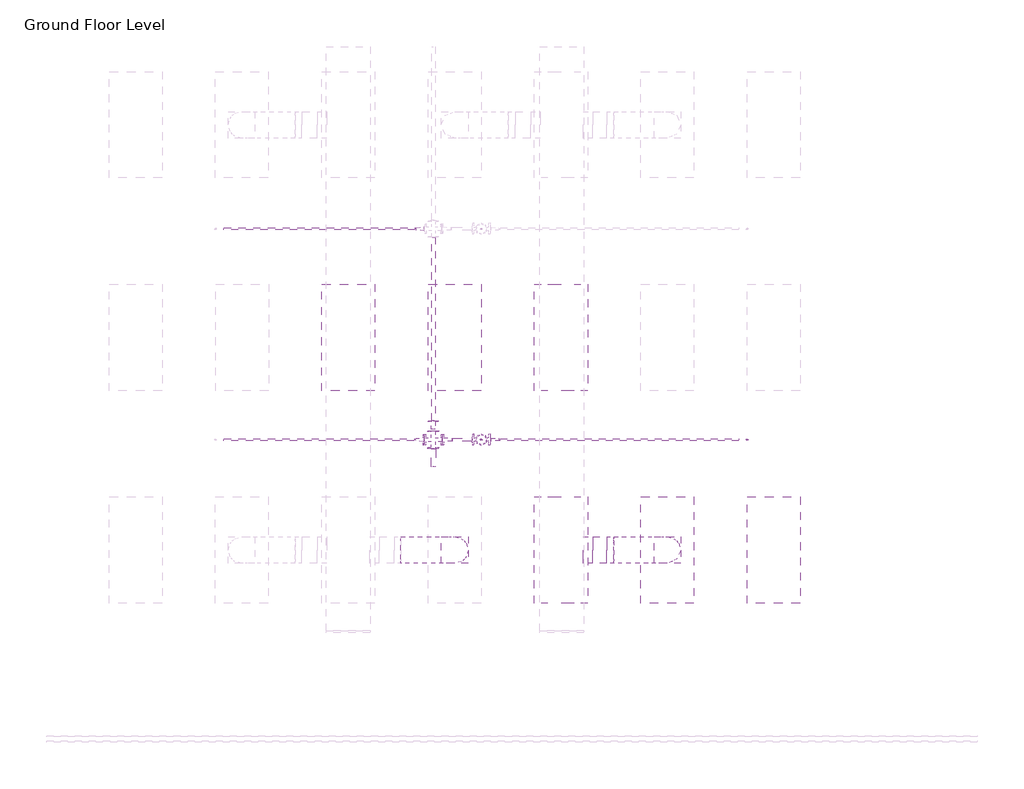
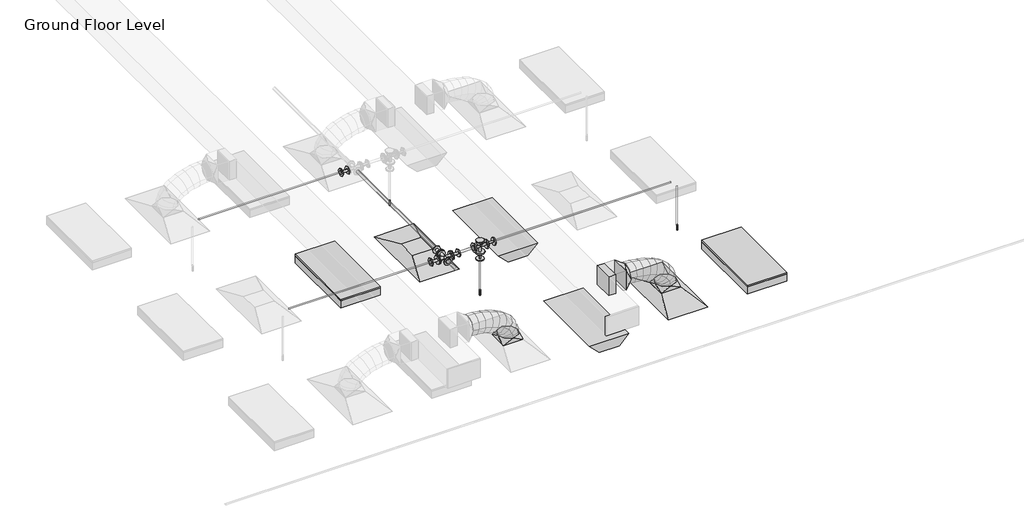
# One storey, part 45 of 74: 8 pipe fittings, 8 pipe segments, 4 duct fittings, 4 light fixtures, 3 duct segments, 3 fire suppression terminals, 2 air terminals.
"""IFC4 building model written with IfcOpenShell, lengths in millimetres."""

from ifc_helpers import new_model, si_unit, point, frame, frame_2d, origin, place, context, project, spatial, polyline, circle_curve, ellipse_curve, trimmed, segment, composite_curve, outline, extrude, transform, mapped, element, save
from ifc_brep_helpers import plane_surface, cylinder_surface, advanced_brep
from components import m_return_diffuser_1200x600_1200_x_600_face_300_x_300_d1983ef6, m_rectangular_takeoff_standard_cb0ccb98, m_rectangular_to_round_transition_angle_45_degree_641efff0, m_sprinkler_dry_pendent_hosted_15_mm_dry_pendent_9bda8e11, m_emergency_recessed_lighting_fixture_600x1200_277_5b10b25d, m_troffer_light_parabolic_rectangular1_0600x1200mm_4_lamp_86473d4a, m_cross_flanged_cs_class_150_standard_fc817054, m_reducer_flanged_cs_class_150_standard_ccf252ad, m_reducer_flanged_cs_class_150_standard_d42b2106, m_reducer_flanged_cs_class_150_standard_cc2a7c1d, m_reducer_flanged_cs_class_150_standard_83138b42, m_reducer_flanged_cs_class_150_standard_564df86d, m_reducer_flanged_cs_class_150_standard_8338f9e4, m_tee_round_base_flanged_cs_class_150_standard_7e5987a1

model = new_model("IFC4")

# Units and contexts
model_context = context("Model", 3, world=origin())
ifc_project = project(units=[si_unit("LENGTHUNIT", "METRE", prefix="MILLI")], contexts=[model_context])

# Site, building, storey
site = spatial("IfcSite", under=ifc_project)
building = spatial("IfcBuilding", under=site)
storey = spatial("IfcBuildingStorey", under=building, Name="Ground Floor Level", Elevation=900.0)

# Air terminals
placement = place(None, origin())
m_return_diffuser_1200x600_1200_x_600_face_300_x_300_shape = m_return_diffuser_1200x600_1200_x_600_face_300_x_300_d1983ef6(model_context)
element("IfcAirTerminal", 1, ObjectType="M_Return Diffuser 1200x600 : 1200 x 600 Face 300 x 300 Connection", at=placement, inside=storey, context=model_context, shape_type="MappedRepresentation", body=[
    mapped(m_return_diffuser_1200x600_1200_x_600_face_300_x_300_shape, transform((-5737.2327605, 4035.2153534, 3650.0), x_axis=(0.0, 1.0, 0.0), y_axis=(-1.0, 0.0, 0.0), z_axis=(0.0, 0.0, 1.0))),
])
element("IfcAirTerminal", 2, ObjectType="M_Supply Diffuser 1200x600 : 1200 x 600 Face 300 x 300 Connection", at=placement, inside=storey, context=model_context, shape_type="MappedRepresentation", body=[
    mapped(m_return_diffuser_1200x600_1200_x_600_face_300_x_300_shape, transform((-3337.2327605, 1635.2153534, 3650.0), x_axis=(0.0, 1.0, 0.0), y_axis=(-1.0, 0.0, 0.0), z_axis=(0.0, 0.0, 1.0))),
])

# Duct fittings
m_rectangular_takeoff_standard_shape = m_rectangular_takeoff_standard_cb0ccb98(model_context)
element("IfcDuctFitting", 3, ObjectType="M_Rectangular Takeoff : Standard", at=placement, inside=storey, context=model_context, shape_type="MappedRepresentation", body=[
    mapped(m_rectangular_takeoff_standard_shape, transform((-4278.6910789, 1635.2153534, 4150.0), x_axis=(1.0, 0.0, 0.0), y_axis=(0.0, -1.0, 0.0), z_axis=(0.0, 0.0, -1.0))),
])
m_rectangular_to_round_transition_angle_45_degree_shape = m_rectangular_to_round_transition_angle_45_degree_641efff0(model_context)
element("IfcDuctFitting", 4, ObjectType="M_Rectangular to Round Transition - Angle : 45 Degree", at=placement, inside=storey, context=model_context, shape_type="MappedRepresentation", body=[
    mapped(m_rectangular_to_round_transition_angle_45_degree_shape, transform((-5737.2327605, 1635.2153534, 3751.6), x_axis=(0.0, 0.0, 1.0), y_axis=(-1.0, 0.0, 0.0), z_axis=(0.0, -1.0, 0.0))),
])
element("IfcDuctFitting", 5, ObjectType="M_Rectangular to Round Transition - Angle : 45 Degree", at=placement, inside=storey, context=model_context, shape_type="MappedRepresentation", body=[
    mapped(m_rectangular_to_round_transition_angle_45_degree_shape, transform((-3337.2327605, 1635.2153534, 3751.6), x_axis=(0.0, 0.0, 1.0), y_axis=(-1.0, 0.0, 0.0), z_axis=(0.0, -1.0, 0.0))),
])
element("IfcDuctFitting", 6, ObjectType="M_Rectangular to Round Transition - Angle : 45 Degree", at=placement, inside=storey, context=model_context, shape_type="MappedRepresentation", body=[
    mapped(m_rectangular_to_round_transition_angle_45_degree_shape, transform((-4018.6354231, 1635.2153534, 4150.0), x_axis=(1.0, 0.0, 0.0), y_axis=(0.0, 1.0, 0.0), z_axis=(0.0, 0.0, 1.0))),
])

# Duct segments
element("IfcDuctSegment", 7, ObjectType="Flex - Round", at=placement, inside=storey, context=model_context, shape_type="AdvancedBrep", body=[
    advanced_brep(
    [(-5587.2327605, 1635.2153534, 3826.6), (-5737.2327605, 1485.2153534, 3826.6), (-5887.2327605, 1635.2153534, 3826.6), (-5737.2327605, 1785.2153534, 3826.6), (-5587.2327605, 1635.2153534, 3882.1261126), (-5737.2327605, 1485.2153534, 3857.3049615), (-5887.2327605, 1635.2153534, 3832.4838104), (-5737.2327605, 1785.2153534, 3857.3049615), (-5618.4260847, 1635.2153534, 3973.7995287), (-5753.8941651, 1485.2153534, 3906.2708192), (-5889.3622454, 1635.2153534, 3838.7421096), (-5753.8941651, 1785.2153534, 3906.2708192), (-5688.1600922, 1635.2153534, 4076.4123668), (-5799.7721827, 1485.2153534, 3973.7798261), (-5911.3842733, 1635.2153534, 3871.1472855), (-5799.7721827, 1785.2153534, 3973.7798261), (-5786.0880408, 1635.2153534, 4155.7111802), (-5868.7075193, 1485.2153534, 4029.6013814), (-5951.3269979, 1635.2153534, 3903.4915826), (-5868.7075193, 1785.2153534, 4029.6013814), (-5894.832581, 1635.2153534, 4212.226815), (-5954.5408807, 1485.2153534, 4074.2098454), (-6014.2491805, 1635.2153534, 3936.1928758), (-5954.5408807, 1785.2153534, 4074.2098454), (-6009.1243732, 1635.2153534, 4252.311196), (-6051.1129728, 1485.2153534, 4108.0795788), (-6093.1015724, 1635.2153534, 3963.8479616), (-6051.1129728, 1785.2153534, 4108.0795788), (-6124.8554478, 1635.2153534, 4279.3189347), (-6152.2645014, 1485.2153534, 4131.684942), (-6179.6735551, 1635.2153534, 3984.0509494), (-6152.2645014, 1785.2153534, 4131.684942), (-6237.5146065, 1635.2153534, 4294.9501488), (-6251.8361725, 1485.2153534, 4145.5002956), (-6266.1577385, 1635.2153534, 3996.0504424), (-6251.8361725, 1785.2153534, 4145.5002956), (-6332.3362491, 1635.2153534, 4300.0), (-6336.3276445, 1485.2153534, 4150.0), (-6340.31904, 1635.2153534, 4000.0), (-6336.3276445, 1785.2153534, 4150.0), (-6343.6686918, 1635.2153534, 4300.0), (-6343.6686918, 1785.2153534, 4150.0), (-6343.6686918, 1635.2153534, 4000.0), (-6343.6686918, 1485.2153534, 4150.0)],
    [
        (0, 1, circle_curve(frame((-5737.2327605, 1635.2153534, 3826.6), z_axis=(0.0, 0.0, -1.0), x_axis=(1.0, 0.0, 0.0)), 150.0)),
        (1, 2, circle_curve(frame((-5737.2327605, 1635.2153534, 3826.6), z_axis=(0.0, 0.0, -1.0), x_axis=(1.0, 0.0, 0.0)), 150.0)),
        (2, 3, circle_curve(frame((-5737.2327605, 1635.2153534, 3826.6), z_axis=(0.0, 0.0, -1.0), x_axis=(1.0, 0.0, 0.0)), 150.0)),
        (3, 0, circle_curve(frame((-5737.2327605, 1635.2153534, 3826.6), z_axis=(0.0, 0.0, -1.0), x_axis=(1.0, 0.0, 0.0)), 150.0)),
        (0, 4),
        (4, 5, ellipse_curve(frame((-5737.2327605, 1635.2153534, 3857.3049615), z_axis=(0.1632543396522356, 0.0, -0.9865840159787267), x_axis=(-0.9865840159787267, 0.0, -0.16325433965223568)), 152.039763, 150.0)),
        (5, 1),
        (5, 6, ellipse_curve(frame((-5737.2327605, 1635.2153534, 3857.3049615), z_axis=(0.1632543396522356, 0.0, -0.9865840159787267), x_axis=(-0.9865840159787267, 0.0, -0.16325433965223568)), 152.039763, 150.0)),
        (6, 2),
        (6, 7, ellipse_curve(frame((-5737.2327605, 1635.2153534, 3857.3049615), z_axis=(0.1632543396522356, 0.0, -0.9865840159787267), x_axis=(-0.9865840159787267, 0.0, -0.16325433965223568)), 152.039763, 150.0)),
        (7, 3),
        (7, 4, ellipse_curve(frame((-5737.2327605, 1635.2153534, 3857.3049615), z_axis=(0.1632543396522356, 0.0, -0.9865840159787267), x_axis=(-0.9865840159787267, 0.0, -0.16325433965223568)), 152.039763, 150.0)),
        (4, 8),
        (8, 9, ellipse_curve(frame((-5753.8941651, 1635.2153534, 3906.2708192), z_axis=(0.4461280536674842, 0.0, -0.8949691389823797), x_axis=(-0.8949691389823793, 0.0, -0.4461280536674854)), 151.366203, 150.0)),
        (9, 5),
        (9, 10, ellipse_curve(frame((-5753.8941651, 1635.2153534, 3906.2708192), z_axis=(0.4461280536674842, 0.0, -0.8949691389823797), x_axis=(-0.8949691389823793, 0.0, -0.4461280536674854)), 151.366203, 150.0)),
        (10, 6),
        (10, 11, ellipse_curve(frame((-5753.8941651, 1635.2153534, 3906.2708192), z_axis=(0.4461280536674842, 0.0, -0.8949691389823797), x_axis=(-0.8949691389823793, 0.0, -0.4461280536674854)), 151.366203, 150.0)),
        (11, 7),
        (11, 8, ellipse_curve(frame((-5753.8941651, 1635.2153534, 3906.2708192), z_axis=(0.4461280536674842, 0.0, -0.8949691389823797), x_axis=(-0.8949691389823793, 0.0, -0.4461280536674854)), 151.366203, 150.0)),
        (8, 12),
        (12, 13, ellipse_curve(frame((-5799.7721827, 1635.2153534, 3973.7798261), z_axis=(0.676875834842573, 0.0, -0.7360972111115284), x_axis=(-0.7360972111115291, 0.0, -0.6768758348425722)), 151.6268352, 150.0)),
        (13, 9),
        (13, 14, ellipse_curve(frame((-5799.7721827, 1635.2153534, 3973.7798261), z_axis=(0.676875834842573, 0.0, -0.7360972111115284), x_axis=(-0.7360972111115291, 0.0, -0.6768758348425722)), 151.6268352, 150.0)),
        (14, 10),
        (14, 15, ellipse_curve(frame((-5799.7721827, 1635.2153534, 3973.7798261), z_axis=(0.676875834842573, 0.0, -0.7360972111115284), x_axis=(-0.7360972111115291, 0.0, -0.6768758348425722)), 151.6268352, 150.0)),
        (15, 11),
        (15, 12, ellipse_curve(frame((-5799.7721827, 1635.2153534, 3973.7798261), z_axis=(0.676875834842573, 0.0, -0.7360972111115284), x_axis=(-0.7360972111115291, 0.0, -0.6768758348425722)), 151.6268352, 150.0)),
        (12, 16),
        (16, 17, ellipse_curve(frame((-5868.7075193, 1635.2153534, 4029.6013814), z_axis=(0.8364738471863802, 0.0, -0.5480068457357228), x_axis=(-0.5480068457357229, 0.0, -0.8364738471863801)), 150.7635884, 150.0)),
        (17, 13),
        (17, 18, ellipse_curve(frame((-5868.7075193, 1635.2153534, 4029.6013814), z_axis=(0.8364738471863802, 0.0, -0.5480068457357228), x_axis=(-0.5480068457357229, 0.0, -0.8364738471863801)), 150.7635884, 150.0)),
        (18, 14),
        (18, 19, ellipse_curve(frame((-5868.7075193, 1635.2153534, 4029.6013814), z_axis=(0.8364738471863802, 0.0, -0.5480068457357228), x_axis=(-0.5480068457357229, 0.0, -0.8364738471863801)), 150.7635884, 150.0)),
        (19, 15),
        (19, 16, ellipse_curve(frame((-5868.7075193, 1635.2153534, 4029.6013814), z_axis=(0.8364738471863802, 0.0, -0.5480068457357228), x_axis=(-0.5480068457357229, 0.0, -0.8364738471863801)), 150.7635884, 150.0)),
        (16, 20),
        (20, 21, ellipse_curve(frame((-5954.5408807, 1635.2153534, 4074.2098454), z_axis=(0.917795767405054, 0.0, -0.3970528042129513), x_axis=(-0.3970528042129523, 0.0, -0.9177957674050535)), 150.3787384, 150.0)),
        (21, 17),
        (21, 22, ellipse_curve(frame((-5954.5408807, 1635.2153534, 4074.2098454), z_axis=(0.917795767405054, 0.0, -0.3970528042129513), x_axis=(-0.3970528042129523, 0.0, -0.9177957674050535)), 150.3787384, 150.0)),
        (22, 18),
        (22, 23, ellipse_curve(frame((-5954.5408807, 1635.2153534, 4074.2098454), z_axis=(0.917795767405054, 0.0, -0.3970528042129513), x_axis=(-0.3970528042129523, 0.0, -0.9177957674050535)), 150.3787384, 150.0)),
        (23, 19),
        (23, 20, ellipse_curve(frame((-5954.5408807, 1635.2153534, 4074.2098454), z_axis=(0.917795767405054, 0.0, -0.3970528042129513), x_axis=(-0.3970528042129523, 0.0, -0.9177957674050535)), 150.3787384, 150.0)),
        (20, 24),
        (24, 25, ellipse_curve(frame((-6051.1129728, 1635.2153534, 4108.0795788), z_axis=(0.9601411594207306, 0.0, -0.2795155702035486), x_axis=(-0.27951557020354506, 0.0, -0.9601411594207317)), 150.2191795, 150.0)),
        (25, 21),
        (25, 26, ellipse_curve(frame((-6051.1129728, 1635.2153534, 4108.0795788), z_axis=(0.9601411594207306, 0.0, -0.2795155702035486), x_axis=(-0.27951557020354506, 0.0, -0.9601411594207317)), 150.2191795, 150.0)),
        (26, 22),
        (26, 27, ellipse_curve(frame((-6051.1129728, 1635.2153534, 4108.0795788), z_axis=(0.9601411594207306, 0.0, -0.2795155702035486), x_axis=(-0.27951557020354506, 0.0, -0.9601411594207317)), 150.2191795, 150.0)),
        (27, 23),
        (27, 24, ellipse_curve(frame((-6051.1129728, 1635.2153534, 4108.0795788), z_axis=(0.9601411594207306, 0.0, -0.2795155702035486), x_axis=(-0.27951557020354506, 0.0, -0.9601411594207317)), 150.2191795, 150.0)),
        (24, 28),
        (28, 29, ellipse_curve(frame((-6152.2645014, 1635.2153534, 4131.684942), z_axis=(0.9831991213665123, 0.0, -0.1825362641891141), x_axis=(-0.18253626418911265, 0.0, -0.9831991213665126)), 150.1567581, 150.0)),
        (29, 25),
        (29, 30, ellipse_curve(frame((-6152.2645014, 1635.2153534, 4131.684942), z_axis=(0.9831991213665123, 0.0, -0.1825362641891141), x_axis=(-0.18253626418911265, 0.0, -0.9831991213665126)), 150.1567581, 150.0)),
        (30, 26),
        (30, 31, ellipse_curve(frame((-6152.2645014, 1635.2153534, 4131.684942), z_axis=(0.9831991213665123, 0.0, -0.1825362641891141), x_axis=(-0.18253626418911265, 0.0, -0.9831991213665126)), 150.1567581, 150.0)),
        (31, 27),
        (31, 28, ellipse_curve(frame((-6152.2645014, 1635.2153534, 4131.684942), z_axis=(0.9831991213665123, 0.0, -0.1825362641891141), x_axis=(-0.18253626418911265, 0.0, -0.9831991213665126)), 150.1567581, 150.0)),
        (28, 32),
        (32, 33, ellipse_curve(frame((-6251.8361725, 1635.2153534, 4145.5002956), z_axis=(0.9954398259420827, 0.0, -0.09539157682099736), x_axis=(-0.09539157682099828, 0.0, -0.9954398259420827)), 150.1344926, 150.0)),
        (33, 29),
        (33, 34, ellipse_curve(frame((-6251.8361725, 1635.2153534, 4145.5002956), z_axis=(0.9954398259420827, 0.0, -0.09539157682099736), x_axis=(-0.09539157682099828, 0.0, -0.9954398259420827)), 150.1344926, 150.0)),
        (34, 30),
        (34, 35, ellipse_curve(frame((-6251.8361725, 1635.2153534, 4145.5002956), z_axis=(0.9954398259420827, 0.0, -0.09539157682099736), x_axis=(-0.09539157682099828, 0.0, -0.9954398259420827)), 150.1344926, 150.0)),
        (35, 31),
        (35, 32, ellipse_curve(frame((-6251.8361725, 1635.2153534, 4145.5002956), z_axis=(0.9954398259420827, 0.0, -0.09539157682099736), x_axis=(-0.09539157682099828, 0.0, -0.9954398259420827)), 150.1344926, 150.0)),
        (32, 36),
        (36, 37, ellipse_curve(frame((-6336.3276445, 1635.2153534, 4150.0), z_axis=(0.9996461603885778, 0.0, -0.026599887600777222), x_axis=(-0.026599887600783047, 0.0, -0.9996461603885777)), 150.0530947, 150.0)),
        (37, 33),
        (37, 38, ellipse_curve(frame((-6336.3276445, 1635.2153534, 4150.0), z_axis=(0.9996461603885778, 0.0, -0.026599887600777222), x_axis=(-0.026599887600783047, 0.0, -0.9996461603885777)), 150.0530947, 150.0)),
        (38, 34),
        (38, 39, ellipse_curve(frame((-6336.3276445, 1635.2153534, 4150.0), z_axis=(0.9996461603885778, 0.0, -0.026599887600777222), x_axis=(-0.026599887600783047, 0.0, -0.9996461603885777)), 150.0530947, 150.0)),
        (39, 35),
        (39, 36, ellipse_curve(frame((-6336.3276445, 1635.2153534, 4150.0), z_axis=(0.9996461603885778, 0.0, -0.026599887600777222), x_axis=(-0.026599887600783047, 0.0, -0.9996461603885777)), 150.0530947, 150.0)),
        (40, 41, circle_curve(frame((-6343.6686918, 1635.2153534, 4150.0), z_axis=(-1.0, 0.0, 0.0), x_axis=(0.0, 0.0, 1.0)), 150.0)),
        (41, 42, circle_curve(frame((-6343.6686918, 1635.2153534, 4150.0), z_axis=(-1.0, 0.0, 0.0), x_axis=(0.0, 0.0, 1.0)), 150.0)),
        (42, 43, circle_curve(frame((-6343.6686918, 1635.2153534, 4150.0), z_axis=(-1.0, 0.0, 0.0), x_axis=(0.0, 0.0, 1.0)), 150.0)),
        (43, 40, circle_curve(frame((-6343.6686918, 1635.2153534, 4150.0), z_axis=(-1.0, 0.0, 0.0), x_axis=(0.0, 0.0, 1.0)), 150.0)),
        (36, 40),
        (43, 37),
        (42, 38),
        (41, 39),
    ],
    [
        plane_surface(frame((-5737.2327605, 1485.2153534, 3826.6), z_axis=(0.0, 0.0, -1.0), x_axis=(1.0, 0.0, 0.0))),
        cylinder_surface(frame((-5737.2327605, 1635.2153534, 3826.6), z_axis=(0.0, 0.0, -1.0), x_axis=(1.0, 0.0, 0.0)), 150.0),
        cylinder_surface(frame((-5737.2327605, 1635.2153534, 3857.3049615), z_axis=(0.32212824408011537, 0.0, -0.946696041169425), x_axis=(0.946696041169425, 0.0, 0.32212824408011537)), 150.0),
        cylinder_surface(frame((-5753.8941651, 1635.2153534, 3906.2708192), z_axis=(0.5620745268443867, 0.0, -0.8270865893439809), x_axis=(0.8270865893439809, 0.0, 0.5620745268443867)), 150.0),
        cylinder_surface(frame((-5799.7721827, 1635.2153534, 3973.7798261), z_axis=(0.777152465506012, 0.0, -0.6293123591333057), x_axis=(0.6293123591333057, 0.0, 0.777152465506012)), 150.0),
        cylinder_surface(frame((-5868.7075193, 1635.2153534, 4029.6013814), z_axis=(0.887322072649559, 0.0, -0.4611502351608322), x_axis=(0.4611502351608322, 0.0, 0.887322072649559)), 150.0),
        cylinder_surface(frame((-5954.5408807, 1635.2153534, 4074.2098454), z_axis=(0.9436464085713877, 0.0, -0.3309553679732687), x_axis=(0.3309553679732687, 0.0, 0.9436464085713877)), 150.0),
        cylinder_surface(frame((-6051.1129728, 1635.2153534, 4108.0795788), z_axis=(0.9738340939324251, 0.0, -0.2272601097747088), x_axis=(0.2272601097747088, 0.0, 0.9738340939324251)), 150.0),
        cylinder_surface(frame((-6152.2645014, 1635.2153534, 4131.684942), z_axis=(0.9905113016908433, 0.0, -0.1374312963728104), x_axis=(0.1374312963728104, 0.0, 0.9905113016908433)), 150.0),
        cylinder_surface(frame((-6251.8361725, 1635.2153534, 4145.5002956), z_axis=(0.998584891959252, 0.0, -0.05318095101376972), x_axis=(0.05318095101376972, 0.0, 0.998584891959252)), 150.0),
        plane_surface(frame((-6343.6686918, 1635.2153534, 4000.0), z_axis=(-1.0, 0.0, 0.0), x_axis=(0.0, -1.0, 0.0))),
        cylinder_surface(frame((-6336.3276445, 1635.2153534, 4150.0), z_axis=(1.0, 0.0, 0.0), x_axis=(0.0, 0.0, 1.0)), 150.0),
    ],
    [
        (0, [[1, 2, 3, 4]]),
        (1, [[-1, 5, 6, 7]]),
        (1, [[-2, -7, 8, 9]]),
        (1, [[-3, -9, 10, 11]]),
        (1, [[-4, -11, 12, -5]]),
        (2, [[-6, 13, 14, 15]]),
        (2, [[-8, -15, 16, 17]]),
        (2, [[-10, -17, 18, 19]]),
        (2, [[-12, -19, 20, -13]]),
        (3, [[-14, 21, 22, 23]]),
        (3, [[-16, -23, 24, 25]]),
        (3, [[-18, -25, 26, 27]]),
        (3, [[-20, -27, 28, -21]]),
        (4, [[-22, 29, 30, 31]]),
        (4, [[-24, -31, 32, 33]]),
        (4, [[-26, -33, 34, 35]]),
        (4, [[-28, -35, 36, -29]]),
        (5, [[-30, 37, 38, 39]]),
        (5, [[-32, -39, 40, 41]]),
        (5, [[-34, -41, 42, 43]]),
        (5, [[-36, -43, 44, -37]]),
        (6, [[-38, 45, 46, 47]]),
        (6, [[-40, -47, 48, 49]]),
        (6, [[-42, -49, 50, 51]]),
        (6, [[-44, -51, 52, -45]]),
        (7, [[-46, 53, 54, 55]]),
        (7, [[-48, -55, 56, 57]]),
        (7, [[-50, -57, 58, 59]]),
        (7, [[-52, -59, 60, -53]]),
        (8, [[-54, 61, 62, 63]]),
        (8, [[-56, -63, 64, 65]]),
        (8, [[-58, -65, 66, 67]]),
        (8, [[-60, -67, 68, -61]]),
        (9, [[-62, 69, 70, 71]]),
        (9, [[-64, -71, 72, 73]]),
        (9, [[-66, -73, 74, 75]]),
        (9, [[-68, -75, 76, -69]]),
        (10, [[77, 78, 79, 80]]),
        (11, [[-70, 81, -80, 82]]),
        (11, [[-72, -82, -79, 83]]),
        (11, [[-74, -83, -78, 84]]),
        (11, [[-76, -84, -77, -81]]),
    ],
),
])
element("IfcDuctSegment", 8, ObjectType="Flex - Round", at=placement, inside=storey, context=model_context, shape_type="AdvancedBrep", body=[
    advanced_brep(
    [(-3187.2327605, 1635.2153534, 3826.6), (-3337.2327605, 1485.2153534, 3826.6), (-3487.2327605, 1635.2153534, 3826.6), (-3337.2327605, 1785.2153534, 3826.6), (-3187.2327605, 1635.2153534, 3882.1248592), (-3337.2327605, 1485.2153534, 3857.3041834), (-3487.2327605, 1635.2153534, 3832.4835076), (-3337.2327605, 1785.2153534, 3857.3041834), (-3218.4243187, 1635.2153534, 3973.7949392), (-3353.8931369, 1485.2153534, 3906.2680098), (-3489.3619552, 1635.2153534, 3838.7410804), (-3353.8931369, 1785.2153534, 3906.2680098), (-3288.1539292, 1635.2153534, 4076.405552), (-3399.7683605, 1485.2153534, 3973.775698), (-3511.3827919, 1635.2153534, 3871.1458441), (-3399.7683605, 1785.2153534, 3973.775698), (-3386.0764792, 1635.2153534, 4155.7044937), (-3468.6995729, 1485.2153534, 4029.5970813), (-3551.3226667, 1635.2153534, 3903.4896689), (-3468.6995729, 1785.2153534, 4029.5970813), (-3494.8156459, 1635.2153534, 4212.2214394), (-3554.5279158, 1485.2153534, 4074.206176), (-3614.2401856, 1635.2153534, 3936.1909126), (-3554.5279158, 1785.2153534, 4074.206176), (-3609.1022421, 1635.2153534, 4252.3075608), (-3651.0945306, 1485.2153534, 4108.0769988), (-3693.0868191, 1635.2153534, 3963.8464368), (-3651.0945306, 1785.2153534, 4108.0769988), (-3724.828557, 1635.2153534, 4279.3170349), (-3752.240559, 1485.2153534, 4131.683566), (-3779.652561, 1635.2153534, 3984.0500972), (-3752.240559, 1785.2153534, 4131.683566), (-3837.483737, 1635.2153534, 4294.9495984), (-3851.8071426, 1485.2153534, 4145.4998943), (-3866.1305483, 1635.2153534, 3996.0501901), (-3851.8071426, 1785.2153534, 4145.4998943), (-3932.3013868, 1635.2153534, 4300.0), (-3936.2933845, 1485.2153534, 4150.0), (-3940.2853822, 1635.2153534, 4000.0), (-3936.2933845, 1785.2153534, 4150.0), (-3943.6354231, 1635.2153534, 4300.0), (-3943.6354231, 1785.2153534, 4150.0), (-3943.6354231, 1635.2153534, 4000.0), (-3943.6354231, 1485.2153534, 4150.0)],
    [
        (0, 1, circle_curve(frame((-3337.2327605, 1635.2153534, 3826.6), z_axis=(0.0, 0.0, -1.0), x_axis=(1.0, 0.0, 0.0)), 150.0)),
        (1, 2, circle_curve(frame((-3337.2327605, 1635.2153534, 3826.6), z_axis=(0.0, 0.0, -1.0), x_axis=(1.0, 0.0, 0.0)), 150.0)),
        (2, 3, circle_curve(frame((-3337.2327605, 1635.2153534, 3826.6), z_axis=(0.0, 0.0, -1.0), x_axis=(1.0, 0.0, 0.0)), 150.0)),
        (3, 0, circle_curve(frame((-3337.2327605, 1635.2153534, 3826.6), z_axis=(0.0, 0.0, -1.0), x_axis=(1.0, 0.0, 0.0)), 150.0)),
        (0, 4),
        (4, 5, ellipse_curve(frame((-3337.2327605, 1635.2153534, 3857.3041834), z_axis=(0.16325129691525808, 0.0, -0.9865845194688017), x_axis=(-0.9865845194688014, 0.0, -0.16325129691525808)), 152.0396854, 150.0)),
        (5, 1),
        (5, 6, ellipse_curve(frame((-3337.2327605, 1635.2153534, 3857.3041834), z_axis=(0.16325129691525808, 0.0, -0.9865845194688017), x_axis=(-0.9865845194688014, 0.0, -0.16325129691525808)), 152.0396854, 150.0)),
        (6, 2),
        (6, 7, ellipse_curve(frame((-3337.2327605, 1635.2153534, 3857.3041834), z_axis=(0.16325129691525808, 0.0, -0.9865845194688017), x_axis=(-0.9865845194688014, 0.0, -0.16325129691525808)), 152.0396854, 150.0)),
        (7, 3),
        (7, 4, ellipse_curve(frame((-3337.2327605, 1635.2153534, 3857.3041834), z_axis=(0.16325129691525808, 0.0, -0.9865845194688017), x_axis=(-0.9865845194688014, 0.0, -0.16325129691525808)), 152.0396854, 150.0)),
        (4, 8),
        (8, 9, ellipse_curve(frame((-3353.8931369, 1635.2153534, 3906.2680098), z_axis=(0.4461166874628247, 0.0, -0.894974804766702), x_axis=(-0.8949748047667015, 0.0, -0.4461166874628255)), 151.3660692, 150.0)),
        (9, 5),
        (9, 10, ellipse_curve(frame((-3353.8931369, 1635.2153534, 3906.2680098), z_axis=(0.4461166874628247, 0.0, -0.894974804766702), x_axis=(-0.8949748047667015, 0.0, -0.4461166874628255)), 151.3660692, 150.0)),
        (10, 6),
        (10, 11, ellipse_curve(frame((-3353.8931369, 1635.2153534, 3906.2680098), z_axis=(0.4461166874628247, 0.0, -0.894974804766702), x_axis=(-0.8949748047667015, 0.0, -0.4461166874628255)), 151.3660692, 150.0)),
        (11, 7),
        (11, 8, ellipse_curve(frame((-3353.8931369, 1635.2153534, 3906.2680098), z_axis=(0.4461166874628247, 0.0, -0.894974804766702), x_axis=(-0.8949748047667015, 0.0, -0.4461166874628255)), 151.3660692, 150.0)),
        (8, 12),
        (12, 13, ellipse_curve(frame((-3399.7683605, 1635.2153534, 3973.775698), z_axis=(0.6768585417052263, 0.0, -0.7361131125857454), x_axis=(-0.736113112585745, 0.0, -0.6768585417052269)), 151.6267398, 150.0)),
        (13, 9),
        (13, 14, ellipse_curve(frame((-3399.7683605, 1635.2153534, 3973.775698), z_axis=(0.6768585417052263, 0.0, -0.7361131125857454), x_axis=(-0.736113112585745, 0.0, -0.6768585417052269)), 151.6267398, 150.0)),
        (14, 10),
        (14, 15, ellipse_curve(frame((-3399.7683605, 1635.2153534, 3973.775698), z_axis=(0.6768585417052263, 0.0, -0.7361131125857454), x_axis=(-0.736113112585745, 0.0, -0.6768585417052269)), 151.6267398, 150.0)),
        (15, 11),
        (15, 12, ellipse_curve(frame((-3399.7683605, 1635.2153534, 3973.775698), z_axis=(0.6768585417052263, 0.0, -0.7361131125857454), x_axis=(-0.736113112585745, 0.0, -0.6768585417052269)), 151.6267398, 150.0)),
        (12, 16),
        (16, 17, ellipse_curve(frame((-3468.6995729, 1635.2153534, 4029.5970813), z_axis=(0.8364581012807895, 0.0, -0.5480308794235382), x_axis=(-0.5480308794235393, 0.0, -0.8364581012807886)), 150.7635735, 150.0)),
        (17, 13),
        (17, 18, ellipse_curve(frame((-3468.6995729, 1635.2153534, 4029.5970813), z_axis=(0.8364581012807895, 0.0, -0.5480308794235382), x_axis=(-0.5480308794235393, 0.0, -0.8364581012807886)), 150.7635735, 150.0)),
        (18, 14),
        (18, 19, ellipse_curve(frame((-3468.6995729, 1635.2153534, 4029.5970813), z_axis=(0.8364581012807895, 0.0, -0.5480308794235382), x_axis=(-0.5480308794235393, 0.0, -0.8364581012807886)), 150.7635735, 150.0)),
        (19, 15),
        (19, 16, ellipse_curve(frame((-3468.6995729, 1635.2153534, 4029.5970813), z_axis=(0.8364581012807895, 0.0, -0.5480308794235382), x_axis=(-0.5480308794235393, 0.0, -0.8364581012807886)), 150.7635735, 150.0)),
        (16, 20),
        (20, 21, ellipse_curve(frame((-3554.5279158, 1635.2153534, 4074.206176), z_axis=(0.9177843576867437, 0.0, -0.3970791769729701), x_axis=(-0.39707917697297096, 0.0, -0.9177843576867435)), 150.3787488, 150.0)),
        (21, 17),
        (21, 22, ellipse_curve(frame((-3554.5279158, 1635.2153534, 4074.206176), z_axis=(0.9177843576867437, 0.0, -0.3970791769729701), x_axis=(-0.39707917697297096, 0.0, -0.9177843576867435)), 150.3787488, 150.0)),
        (22, 18),
        (22, 23, ellipse_curve(frame((-3554.5279158, 1635.2153534, 4074.206176), z_axis=(0.9177843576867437, 0.0, -0.3970791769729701), x_axis=(-0.39707917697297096, 0.0, -0.9177843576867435)), 150.3787488, 150.0)),
        (23, 19),
        (23, 20, ellipse_curve(frame((-3554.5279158, 1635.2153534, 4074.206176), z_axis=(0.9177843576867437, 0.0, -0.3970791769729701), x_axis=(-0.39707917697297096, 0.0, -0.9177843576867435)), 150.3787488, 150.0)),
        (20, 24),
        (24, 25, ellipse_curve(frame((-3651.0945306, 1635.2153534, 4108.0769988), z_axis=(0.9601340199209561, 0.0, -0.27954009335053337), x_axis=(-0.2795400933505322, 0.0, -0.9601340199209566)), 150.2191975, 150.0)),
        (25, 21),
        (25, 26, ellipse_curve(frame((-3651.0945306, 1635.2153534, 4108.0769988), z_axis=(0.9601340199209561, 0.0, -0.27954009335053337), x_axis=(-0.2795400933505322, 0.0, -0.9601340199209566)), 150.2191975, 150.0)),
        (26, 22),
        (26, 27, ellipse_curve(frame((-3651.0945306, 1635.2153534, 4108.0769988), z_axis=(0.9601340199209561, 0.0, -0.27954009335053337), x_axis=(-0.2795400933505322, 0.0, -0.9601340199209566)), 150.2191975, 150.0)),
        (27, 23),
        (27, 24, ellipse_curve(frame((-3651.0945306, 1635.2153534, 4108.0769988), z_axis=(0.9601340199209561, 0.0, -0.27954009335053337), x_axis=(-0.2795400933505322, 0.0, -0.9601340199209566)), 150.2191975, 150.0)),
        (24, 28),
        (28, 29, ellipse_curve(frame((-3752.240559, 1635.2153534, 4131.683566), z_axis=(0.983195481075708, 0.0, -0.1825558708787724), x_axis=(-0.18255587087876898, 0.0, -0.9831954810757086)), 150.1567813, 150.0)),
        (29, 25),
        (29, 30, ellipse_curve(frame((-3752.240559, 1635.2153534, 4131.683566), z_axis=(0.983195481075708, 0.0, -0.1825558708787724), x_axis=(-0.18255587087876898, 0.0, -0.9831954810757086)), 150.1567813, 150.0)),
        (30, 26),
        (30, 31, ellipse_curve(frame((-3752.240559, 1635.2153534, 4131.683566), z_axis=(0.983195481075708, 0.0, -0.1825558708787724), x_axis=(-0.18255587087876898, 0.0, -0.9831954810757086)), 150.1567813, 150.0)),
        (31, 27),
        (31, 28, ellipse_curve(frame((-3752.240559, 1635.2153534, 4131.683566), z_axis=(0.983195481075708, 0.0, -0.1825558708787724), x_axis=(-0.18255587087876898, 0.0, -0.9831954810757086)), 150.1567813, 150.0)),
        (28, 32),
        (32, 33, ellipse_curve(frame((-3851.8071426, 1635.2153534, 4145.4998943), z_axis=(0.995438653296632, 0.0, -0.09540381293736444), x_axis=(-0.09540381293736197, 0.0, -0.9954386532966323)), 150.1345197, 150.0)),
        (33, 29),
        (33, 34, ellipse_curve(frame((-3851.8071426, 1635.2153534, 4145.4998943), z_axis=(0.995438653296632, 0.0, -0.09540381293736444), x_axis=(-0.09540381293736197, 0.0, -0.9954386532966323)), 150.1345197, 150.0)),
        (34, 30),
        (34, 35, ellipse_curve(frame((-3851.8071426, 1635.2153534, 4145.4998943), z_axis=(0.995438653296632, 0.0, -0.09540381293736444), x_axis=(-0.09540381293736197, 0.0, -0.9954386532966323)), 150.1345197, 150.0)),
        (35, 31),
        (35, 32, ellipse_curve(frame((-3851.8071426, 1635.2153534, 4145.4998943), z_axis=(0.995438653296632, 0.0, -0.09540381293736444), x_axis=(-0.09540381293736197, 0.0, -0.9954386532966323)), 150.1345197, 150.0)),
        (32, 36),
        (36, 37, ellipse_curve(frame((-3936.2933845, 1635.2153534, 4150.0), z_axis=(0.9996460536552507, 0.0, -0.026603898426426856), x_axis=(-0.026603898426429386, 0.0, -0.9996460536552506)), 150.0531108, 150.0)),
        (37, 33),
        (37, 38, ellipse_curve(frame((-3936.2933845, 1635.2153534, 4150.0), z_axis=(0.9996460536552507, 0.0, -0.026603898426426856), x_axis=(-0.026603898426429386, 0.0, -0.9996460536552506)), 150.0531108, 150.0)),
        (38, 34),
        (38, 39, ellipse_curve(frame((-3936.2933845, 1635.2153534, 4150.0), z_axis=(0.9996460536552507, 0.0, -0.026603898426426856), x_axis=(-0.026603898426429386, 0.0, -0.9996460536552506)), 150.0531108, 150.0)),
        (39, 35),
        (39, 36, ellipse_curve(frame((-3936.2933845, 1635.2153534, 4150.0), z_axis=(0.9996460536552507, 0.0, -0.026603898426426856), x_axis=(-0.026603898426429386, 0.0, -0.9996460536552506)), 150.0531108, 150.0)),
        (40, 41, circle_curve(frame((-3943.6354231, 1635.2153534, 4150.0), z_axis=(-1.0, 0.0, 0.0), x_axis=(0.0, 0.0, 1.0)), 150.0)),
        (41, 42, circle_curve(frame((-3943.6354231, 1635.2153534, 4150.0), z_axis=(-1.0, 0.0, 0.0), x_axis=(0.0, 0.0, 1.0)), 150.0)),
        (42, 43, circle_curve(frame((-3943.6354231, 1635.2153534, 4150.0), z_axis=(-1.0, 0.0, 0.0), x_axis=(0.0, 0.0, 1.0)), 150.0)),
        (43, 40, circle_curve(frame((-3943.6354231, 1635.2153534, 4150.0), z_axis=(-1.0, 0.0, 0.0), x_axis=(0.0, 0.0, 1.0)), 150.0)),
        (36, 40),
        (43, 37),
        (42, 38),
        (41, 39),
    ],
    [
        plane_surface(frame((-3337.2327605, 1485.2153534, 3826.6), z_axis=(0.0, 0.0, -1.0), x_axis=(1.0, 0.0, 0.0))),
        cylinder_surface(frame((-3337.2327605, 1635.2153534, 3826.6), z_axis=(0.0, 0.0, -1.0), x_axis=(1.0, 0.0, 0.0)), 150.0),
        cylinder_surface(frame((-3337.2327605, 1635.2153534, 3857.3041834), z_axis=(0.3221224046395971, 0.0, -0.9466980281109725), x_axis=(0.9466980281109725, 0.0, 0.3221224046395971)), 150.0),
        cylinder_surface(frame((-3353.8931369, 1635.2153534, 3906.2680098), z_axis=(0.5620586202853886, 0.0, -0.827097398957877), x_axis=(0.827097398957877, 0.0, 0.5620586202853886)), 150.0),
        cylinder_surface(frame((-3399.7683605, 1635.2153534, 3973.775698), z_axis=(0.7771349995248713, 0.0, -0.6293339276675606), x_axis=(0.6293339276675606, 0.0, 0.7771349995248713)), 150.0),
        cylinder_surface(frame((-3468.6995729, 1635.2153534, 4029.5970813), z_axis=(0.887308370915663, 0.0, -0.46117659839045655), x_axis=(0.46117659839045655, 0.0, 0.887308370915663)), 150.0),
        cylinder_surface(frame((-3554.5279158, 1635.2153534, 4074.206176), z_axis=(0.9436372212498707, 0.0, -0.3309815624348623), x_axis=(0.3309815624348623, 0.0, 0.9436372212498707)), 150.0),
        cylinder_surface(frame((-3651.0945306, 1635.2153534, 4108.0769988), z_axis=(0.9738287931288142, 0.0, -0.22728282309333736), x_axis=(0.22728282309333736, 0.0, 0.9738287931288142)), 150.0),
        cylinder_surface(frame((-3752.240559, 1635.2153534, 4131.683566), z_axis=(0.9905090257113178, 0.0, -0.13744769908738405), x_axis=(0.13744769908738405, 0.0, 0.9905090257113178)), 150.0),
        cylinder_surface(frame((-3851.8071426, 1635.2153534, 4145.4998943), z_axis=(0.9985844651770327, 0.0, -0.05318896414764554), x_axis=(0.05318896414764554, 0.0, 0.9985844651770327)), 150.0),
        plane_surface(frame((-3943.6354231, 1635.2153534, 4000.0), z_axis=(-1.0, 0.0, 0.0), x_axis=(0.0, -1.0, 0.0))),
        cylinder_surface(frame((-3936.2933845, 1635.2153534, 4150.0), z_axis=(1.0, 0.0, 0.0), x_axis=(0.0, 0.0, 1.0)), 150.0),
    ],
    [
        (0, [[1, 2, 3, 4]]),
        (1, [[-1, 5, 6, 7]]),
        (1, [[-2, -7, 8, 9]]),
        (1, [[-3, -9, 10, 11]]),
        (1, [[-4, -11, 12, -5]]),
        (2, [[-6, 13, 14, 15]]),
        (2, [[-8, -15, 16, 17]]),
        (2, [[-10, -17, 18, 19]]),
        (2, [[-12, -19, 20, -13]]),
        (3, [[-14, 21, 22, 23]]),
        (3, [[-16, -23, 24, 25]]),
        (3, [[-18, -25, 26, 27]]),
        (3, [[-20, -27, 28, -21]]),
        (4, [[-22, 29, 30, 31]]),
        (4, [[-24, -31, 32, 33]]),
        (4, [[-26, -33, 34, 35]]),
        (4, [[-28, -35, 36, -29]]),
        (5, [[-30, 37, 38, 39]]),
        (5, [[-32, -39, 40, 41]]),
        (5, [[-34, -41, 42, 43]]),
        (5, [[-36, -43, 44, -37]]),
        (6, [[-38, 45, 46, 47]]),
        (6, [[-40, -47, 48, 49]]),
        (6, [[-42, -49, 50, 51]]),
        (6, [[-44, -51, 52, -45]]),
        (7, [[-46, 53, 54, 55]]),
        (7, [[-48, -55, 56, 57]]),
        (7, [[-50, -57, 58, 59]]),
        (7, [[-52, -59, 60, -53]]),
        (8, [[-54, 61, 62, 63]]),
        (8, [[-56, -63, 64, 65]]),
        (8, [[-58, -65, 66, 67]]),
        (8, [[-60, -67, 68, -61]]),
        (9, [[-62, 69, 70, 71]]),
        (9, [[-64, -71, 72, 73]]),
        (9, [[-66, -73, 74, 75]]),
        (9, [[-68, -75, 76, -69]]),
        (10, [[77, 78, 79, 80]]),
        (11, [[-70, 81, -80, 82]]),
        (11, [[-72, -82, -79, 83]]),
        (11, [[-74, -83, -78, 84]]),
        (11, [[-76, -84, -77, -81]]),
    ],
),
])
element("IfcDuctSegment", 9, ObjectType="Radius Elbows / Taps", at=placement, inside=storey, context=model_context, shape_type="SweptSolid", body=[
    extrude(outline(polyline([(-4177.0910789, 1485.2153534), (-4177.0910789, 1785.2153534), (-4018.6354231, 1785.2153534), (-4018.6354231, 1485.2153534), (-4177.0910789, 1485.2153534)])), frame((0.0, 0.0, 4000.0), z_axis=(0.0, 0.0, 1.0), x_axis=(1.0, 0.0, 0.0)), (0.0, 0.0, 1.0), 300.0),
])

# Fire suppression terminals
m_sprinkler_dry_pendent_hosted_15_mm_dry_pendent_shape = m_sprinkler_dry_pendent_hosted_15_mm_dry_pendent_9bda8e11(model_context)
element("IfcFireSuppressionTerminal", 10, ObjectType="M_Sprinkler - Dry - Pendent - Hosted : 15 mm Dry Pendent", at=placement, inside=storey, context=model_context, shape_type="MappedRepresentation", body=[
    mapped(m_sprinkler_dry_pendent_hosted_15_mm_dry_pendent_shape, transform((-5437.2327605, 5261.0372753, 3650.0), x_axis=(1.0, 0.0, 0.0), y_axis=(0.0, -1.0, 0.0), z_axis=(0.0, 0.0, -1.0))),
])
element("IfcFireSuppressionTerminal", 11, ObjectType="M_Sprinkler - Dry - Pendent - Hosted : 15 mm Dry Pendent", at=placement, inside=storey, context=model_context, shape_type="MappedRepresentation", body=[
    mapped(m_sprinkler_dry_pendent_hosted_15_mm_dry_pendent_shape, transform((-2437.2327605, 2881.5134565, 3650.0), x_axis=(1.0, 0.0, 0.0), y_axis=(0.0, -1.0, 0.0), z_axis=(0.0, 0.0, -1.0))),
])
element("IfcFireSuppressionTerminal", 12, ObjectType="M_Sprinkler - Dry - Pendent - Hosted : 15 mm Dry Pendent", at=placement, inside=storey, context=model_context, shape_type="MappedRepresentation", body=[
    mapped(m_sprinkler_dry_pendent_hosted_15_mm_dry_pendent_shape, transform((-5437.2327605, 2881.5134565, 3650.0), x_axis=(1.0, 0.0, 0.0), y_axis=(0.0, -1.0, 0.0), z_axis=(0.0, 0.0, -1.0))),
])

# Light fixtures
m_emergency_recessed_lighting_fixture_600x1200_277_shape = m_emergency_recessed_lighting_fixture_600x1200_277_5b10b25d(model_context)
element("IfcLightFixture", 13, ObjectType="M_Emergency Recessed Lighting Fixture : 600x1200 - 277", at=placement, inside=storey, context=model_context, shape_type="MappedRepresentation", body=[
    mapped(m_emergency_recessed_lighting_fixture_600x1200_277_shape, transform((-4837.2327605, 3435.2153534, 3650.0), x_axis=(0.0, 1.0, 0.0), y_axis=(-1.0, 0.0, 0.0), z_axis=(0.0, 0.0, 1.0))),
])
element("IfcLightFixture", 14, ObjectType="M_Emergency Recessed Lighting Fixture : 600x1200 - 277", at=placement, inside=storey, context=model_context, shape_type="MappedRepresentation", body=[
    mapped(m_emergency_recessed_lighting_fixture_600x1200_277_shape, transform((-4837.2327605, 1035.2153534, 3650.0), x_axis=(0.0, 1.0, 0.0), y_axis=(-1.0, 0.0, 0.0), z_axis=(0.0, 0.0, 1.0))),
])
m_troffer_light_parabolic_rectangular1_0600x1200mm_4_lamp_shape = m_troffer_light_parabolic_rectangular1_0600x1200mm_4_lamp_86473d4a(model_context)
element("IfcLightFixture", 15, ObjectType="M_Troffer Light - Parabolic Rectangular1 : 0600x1200mm(4 Lamp) - 277V 2", at=placement, inside=storey, context=model_context, shape_type="MappedRepresentation", body=[
    mapped(m_troffer_light_parabolic_rectangular1_0600x1200mm_4_lamp_shape, transform((-6996.6986926, 4053.918855, 3650.0), x_axis=(0.0, 1.0, 0.0), y_axis=(-1.0, 0.0, 0.0), z_axis=(0.0, 0.0, 1.0))),
])
element("IfcLightFixture", 16, ObjectType="M_Troffer Light - Parabolic Rectangular1 : 0600x1200mm(4 Lamp) - 277V 2", at=placement, inside=storey, context=model_context, shape_type="MappedRepresentation", body=[
    mapped(m_troffer_light_parabolic_rectangular1_0600x1200mm_4_lamp_shape, transform((-2196.6986926, 1653.918855, 3650.0), x_axis=(0.0, 1.0, 0.0), y_axis=(-1.0, 0.0, 0.0), z_axis=(0.0, 0.0, 1.0))),
])

# Pipe fittings
m_cross_flanged_cs_class_150_standard_shape = m_cross_flanged_cs_class_150_standard_fc817054(model_context)
element("IfcPipeFitting", 17, ObjectType="M_Cross - Flanged - CS - Class 150 : Standard", at=placement, inside=storey, context=model_context, shape_type="MappedRepresentation", body=[
    mapped(m_cross_flanged_cs_class_150_standard_shape, transform((-5978.130502, 2881.5134565, 4360.0), x_axis=(0.0, 1.0, 0.0), y_axis=(1.0, 0.0, 0.0), z_axis=(0.0, 0.0, -1.0))),
])
m_reducer_flanged_cs_class_150_standard_shape = m_reducer_flanged_cs_class_150_standard_ccf252ad(model_context)
element("IfcPipeFitting", 18, ObjectType="M_Reducer - Flanged - CS - Class 150 : Standard", at=placement, inside=storey, context=model_context, shape_type="MappedRepresentation", body=[
    mapped(m_reducer_flanged_cs_class_150_standard_shape, transform((-5437.2327605, 2881.5134565, 4259.2914063), x_axis=(0.0, 0.0, -1.0), y_axis=(-1.0, 0.0, 0.0), z_axis=(0.0, 1.0, 0.0))),
])
m_reducer_flanged_cs_class_150_standard_2_shape = m_reducer_flanged_cs_class_150_standard_d42b2106(model_context)
element("IfcPipeFitting", 19, ObjectType="M_Reducer - Flanged - CS - Class 150 : Standard", at=placement, inside=storey, context=model_context, shape_type="MappedRepresentation", body=[
    mapped(m_reducer_flanged_cs_class_150_standard_2_shape, transform((-5336.5241668, 2881.5134565, 4360.0), x_axis=(1.0, 0.0, 0.0), y_axis=(0.0, 1.0, 0.0), z_axis=(0.0, 0.0, 1.0))),
])
m_reducer_flanged_cs_class_150_standard_3_shape = m_reducer_flanged_cs_class_150_standard_cc2a7c1d(model_context)
element("IfcPipeFitting", 20, ObjectType="M_Reducer - Flanged - CS - Class 150 : Standard", at=placement, inside=storey, context=model_context, shape_type="MappedRepresentation", body=[
    mapped(m_reducer_flanged_cs_class_150_standard_3_shape, transform((-6073.130502, 5261.0372753, 4360.0), x_axis=(-1.0, 0.0, 0.0), y_axis=(0.0, 0.0, -1.0), z_axis=(0.0, -1.0, 0.0))),
])
m_reducer_flanged_cs_class_150_standard_4_shape = m_reducer_flanged_cs_class_150_standard_83138b42(model_context)
element("IfcPipeFitting", 21, ObjectType="M_Reducer - Flanged - CS - Class 150 : Standard", at=placement, inside=storey, context=model_context, shape_type="MappedRepresentation", body=[
    mapped(m_reducer_flanged_cs_class_150_standard_4_shape, transform((-6080.130502, 2881.5134565, 4360.0), x_axis=(-1.0, 0.0, 0.0), y_axis=(0.0, 0.0, -1.0), z_axis=(0.0, -1.0, 0.0))),
])
m_reducer_flanged_cs_class_150_standard_5_shape = m_reducer_flanged_cs_class_150_standard_564df86d(model_context)
element("IfcPipeFitting", 22, ObjectType="M_Reducer - Flanged - CS - Class 150 : Standard", at=placement, inside=storey, context=model_context, shape_type="MappedRepresentation", body=[
    mapped(m_reducer_flanged_cs_class_150_standard_5_shape, transform((-5978.130502, 2983.5134565, 4360.0), x_axis=(0.0, 1.0, 0.0), y_axis=(-1.0, 0.0, 0.0), z_axis=(0.0, 0.0, 1.0))),
])
m_reducer_flanged_cs_class_150_standard_6_shape = m_reducer_flanged_cs_class_150_standard_8338f9e4(model_context)
element("IfcPipeFitting", 23, ObjectType="M_Reducer - Flanged - CS - Class 150 : Standard", at=placement, inside=storey, context=model_context, shape_type="MappedRepresentation", body=[
    mapped(m_reducer_flanged_cs_class_150_standard_6_shape, transform((-5876.130502, 2881.5134565, 4360.0), x_axis=(1.0, 0.0, 0.0), y_axis=(0.0, 1.0, 0.0), z_axis=(0.0, 0.0, 1.0))),
])
m_tee_round_base_flanged_cs_class_150_standard_shape = m_tee_round_base_flanged_cs_class_150_standard_7e5987a1(model_context)
element("IfcPipeFitting", 24, ObjectType="M_Tee Round Base - Flanged - CS - Class 150 : Standard", at=placement, inside=storey, context=model_context, shape_type="MappedRepresentation", body=[
    mapped(m_tee_round_base_flanged_cs_class_150_standard_shape, transform((-5437.2327605, 2881.5134565, 4360.0), x_axis=(1.0, 0.0, 0.0), y_axis=(0.0, 0.0, 1.0), z_axis=(0.0, -1.0, 0.0))),
])

# Pipe segments
element("IfcPipeSegment", 25, ObjectType="Steel flanged", at=placement, inside=storey, context=model_context, shape_type="SweptSolid", body=[
    extrude(outline(composite_curve([segment(trimmed(circle_curve(frame_2d((5261.0372753, 4360.0)), 10.668), [point((5250.3692753, 4360.0))], [point((5261.0372753, 4370.668))], False, "CARTESIAN"), True, "CONTINUOUS"), segment(trimmed(circle_curve(frame_2d((5261.0372753, 4360.0)), 10.668), [point((5261.0372753, 4370.668))], [point((5271.7052753, 4360.0))], False, "CARTESIAN"), True, "CONTINUOUS"), segment(trimmed(circle_curve(frame_2d((5261.0372753, 4360.0)), 10.668), [point((5271.7052753, 4360.0))], [point((5261.0372753, 4349.332))], False, "CARTESIAN"), True, "CONTINUOUS"), segment(trimmed(circle_curve(frame_2d((5261.0372753, 4360.0)), 10.668), [point((5261.0372753, 4349.332))], [point((5250.3692753, 4360.0))], False, "CARTESIAN"), True, "CONTINUOUS")], self_intersect=False)), frame((-8344.2241668, 0.0, 0.0), z_axis=(1.0, 0.0, 0.0), x_axis=(0.0, 1.0, 0.0)), (0.0, 0.0, 1.0), 2157.0936648),
])
element("IfcPipeSegment", 26, ObjectType="Steel flanged", at=placement, inside=storey, context=model_context, shape_type="SweptSolid", body=[
    extrude(outline(composite_curve([segment(trimmed(circle_curve(frame_2d((2881.5134565, 4360.0)), 10.668), [point((2870.8454565, 4360.0))], [point((2881.5134565, 4370.668))], False, "CARTESIAN"), True, "CONTINUOUS"), segment(trimmed(circle_curve(frame_2d((2881.5134565, 4360.0)), 10.668), [point((2881.5134565, 4370.668))], [point((2892.1814565, 4360.0))], False, "CARTESIAN"), True, "CONTINUOUS"), segment(trimmed(circle_curve(frame_2d((2881.5134565, 4360.0)), 10.668), [point((2892.1814565, 4360.0))], [point((2881.5134565, 4349.332))], False, "CARTESIAN"), True, "CONTINUOUS"), segment(trimmed(circle_curve(frame_2d((2881.5134565, 4360.0)), 10.668), [point((2881.5134565, 4349.332))], [point((2870.8454565, 4360.0))], False, "CARTESIAN"), True, "CONTINUOUS")], self_intersect=False)), frame((-8344.2241668, 0.0, 0.0), z_axis=(1.0, 0.0, 0.0), x_axis=(0.0, 1.0, 0.0)), (0.0, 0.0, 1.0), 2150.0936648),
])
element("IfcPipeSegment", 27, ObjectType="Steel flanged", at=placement, inside=storey, context=model_context, shape_type="SweptSolid", body=[
    extrude(outline(composite_curve([segment(trimmed(circle_curve(frame_2d((0.0, -24.13)), 24.13), [point((0.0, 0.0))], [point((24.13, -24.13))], False, "CARTESIAN"), True, "CONTINUOUS"), segment(trimmed(circle_curve(frame_2d((0.0, -24.13)), 24.13), [point((24.13, -24.13))], [point((0.0, -48.26))], False, "CARTESIAN"), True, "CONTINUOUS"), segment(trimmed(circle_curve(frame_2d((0.0, -24.13)), 24.13), [point((0.0, -48.26))], [point((-24.13, -24.13))], False, "CARTESIAN"), True, "CONTINUOUS"), segment(trimmed(circle_curve(frame_2d((0.0, -24.13)), 24.13), [point((-24.13, -24.13))], [point((0.0, 0.0))], False, "CARTESIAN"), True, "CONTINUOUS")], self_intersect=False)), frame((-6002.260502, 2573.2009828, 4360.0), z_axis=(-1.0658141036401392e-12, 1.0, 0.0), x_axis=(0.0, 0.0, -1.0)), (0.0, 0.0, 1.0), 206.3124738),
])
element("IfcPipeSegment", 28, ObjectType="Steel flanged", at=placement, inside=storey, context=model_context, shape_type="SweptSolid", body=[
    extrude(outline(composite_curve([segment(trimmed(circle_curve(frame_2d((4360.0, -5978.130502)), 21.082), [point((4360.0, -5999.212502))], [point((4338.918, -5978.130502))], False, "CARTESIAN"), True, "CONTINUOUS"), segment(trimmed(circle_curve(frame_2d((4360.0, -5978.130502)), 21.082), [point((4338.918, -5978.130502))], [point((4360.0, -5957.048502))], False, "CARTESIAN"), True, "CONTINUOUS"), segment(trimmed(circle_curve(frame_2d((4360.0, -5978.130502)), 21.082), [point((4360.0, -5957.048502))], [point((4381.082, -5978.130502))], False, "CARTESIAN"), True, "CONTINUOUS"), segment(trimmed(circle_curve(frame_2d((4360.0, -5978.130502)), 21.082), [point((4381.082, -5978.130502))], [point((4360.0, -5999.212502))], False, "CARTESIAN"), True, "CONTINUOUS")], self_intersect=False)), frame((0.0, 3097.5134565, 0.0), z_axis=(0.0, 1.0, 0.0), x_axis=(0.0, 0.0, 1.0)), (0.0, 0.0, 1.0), 2068.5238188),
])
element("IfcPipeSegment", 29, ObjectType="Steel flanged", at=placement, inside=storey, context=model_context, shape_type="SweptSolid", body=[
    extrude(outline(composite_curve([segment(trimmed(circle_curve(frame_2d((-2437.2327605, 2881.5134565)), 10.668), [point((-2447.9007605, 2881.5134565))], [point((-2437.2327605, 2892.1814565))], False, "CARTESIAN"), True, "CONTINUOUS"), segment(trimmed(circle_curve(frame_2d((-2437.2327605, 2881.5134565)), 10.668), [point((-2437.2327605, 2892.1814565))], [point((-2426.5647605, 2881.5134565))], False, "CARTESIAN"), True, "CONTINUOUS"), segment(trimmed(circle_curve(frame_2d((-2437.2327605, 2881.5134565)), 10.668), [point((-2426.5647605, 2881.5134565))], [point((-2437.2327605, 2870.8454565))], False, "CARTESIAN"), True, "CONTINUOUS"), segment(trimmed(circle_curve(frame_2d((-2437.2327605, 2881.5134565)), 10.668), [point((-2437.2327605, 2870.8454565))], [point((-2447.9007605, 2881.5134565))], False, "CARTESIAN"), True, "CONTINUOUS")], self_intersect=False)), frame((0.0, 0.0, 3650.0), z_axis=(0.0, 0.0, 1.0), x_axis=(1.0, 0.0, 0.0)), (0.0, 0.0, 1.0), 616.9914063),
])
element("IfcPipeSegment", 30, ObjectType="Steel flanged", at=placement, inside=storey, context=model_context, shape_type="SweptSolid", body=[
    extrude(outline(composite_curve([segment(trimmed(circle_curve(frame_2d((-5437.2327605, 2881.5134565)), 10.668), [point((-5447.9007605, 2881.5134565))], [point((-5437.2327605, 2892.1814565))], False, "CARTESIAN"), True, "CONTINUOUS"), segment(trimmed(circle_curve(frame_2d((-5437.2327605, 2881.5134565)), 10.668), [point((-5437.2327605, 2892.1814565))], [point((-5426.5647605, 2881.5134565))], False, "CARTESIAN"), True, "CONTINUOUS"), segment(trimmed(circle_curve(frame_2d((-5437.2327605, 2881.5134565)), 10.668), [point((-5426.5647605, 2881.5134565))], [point((-5437.2327605, 2870.8454565))], False, "CARTESIAN"), True, "CONTINUOUS"), segment(trimmed(circle_curve(frame_2d((-5437.2327605, 2881.5134565)), 10.668), [point((-5437.2327605, 2870.8454565))], [point((-5447.9007605, 2881.5134565))], False, "CARTESIAN"), True, "CONTINUOUS")], self_intersect=False)), frame((0.0, 0.0, 3650.0), z_axis=(0.0, 0.0, 1.0), x_axis=(1.0, 0.0, 0.0)), (0.0, 0.0, 1.0), 495.2914062),
])
element("IfcPipeSegment", 31, ObjectType="Steel flanged", at=placement, inside=storey, context=model_context, shape_type="SweptSolid", body=[
    extrude(outline(composite_curve([segment(trimmed(circle_curve(frame_2d((2881.5134565, 4360.0)), 16.7005), [point((2898.2139565, 4360.0))], [point((2881.5134565, 4343.2995))], False, "CARTESIAN"), True, "CONTINUOUS"), segment(trimmed(circle_curve(frame_2d((2881.5134565, 4360.0)), 16.7005), [point((2881.5134565, 4343.2995))], [point((2864.8129565, 4360.0))], False, "CARTESIAN"), True, "CONTINUOUS"), segment(trimmed(circle_curve(frame_2d((2881.5134565, 4360.0)), 16.7005), [point((2864.8129565, 4360.0))], [point((2881.5134565, 4376.7005))], False, "CARTESIAN"), True, "CONTINUOUS"), segment(trimmed(circle_curve(frame_2d((2881.5134565, 4360.0)), 16.7005), [point((2881.5134565, 4376.7005))], [point((2898.2139565, 4360.0))], False, "CARTESIAN"), True, "CONTINUOUS")], self_intersect=False)), frame((-5762.130502, 0.0, 0.0), z_axis=(1.0, 0.0, 0.0), x_axis=(0.0, 1.0, 0.0)), (0.0, 0.0, 1.0), 224.1891477),
])
element("IfcPipeSegment", 32, ObjectType="Steel flanged", at=placement, inside=storey, context=model_context, shape_type="SweptSolid", body=[
    extrude(outline(composite_curve([segment(trimmed(circle_curve(frame_2d((2881.5134565, 4360.0)), 10.668), [point((2892.1814565, 4360.0))], [point((2881.5134565, 4349.332))], False, "CARTESIAN"), True, "CONTINUOUS"), segment(trimmed(circle_curve(frame_2d((2881.5134565, 4360.0)), 10.668), [point((2881.5134565, 4349.332))], [point((2870.8454565, 4360.0))], False, "CARTESIAN"), True, "CONTINUOUS"), segment(trimmed(circle_curve(frame_2d((2881.5134565, 4360.0)), 10.668), [point((2870.8454565, 4360.0))], [point((2881.5134565, 4370.668))], False, "CARTESIAN"), True, "CONTINUOUS"), segment(trimmed(circle_curve(frame_2d((2881.5134565, 4360.0)), 10.668), [point((2881.5134565, 4370.668))], [point((2892.1814565, 4360.0))], False, "CARTESIAN"), True, "CONTINUOUS")], self_intersect=False)), frame((-5222.5241668, 0.0, 0.0), z_axis=(1.0, 0.0, 0.0), x_axis=(0.0, 1.0, 0.0)), (0.0, 0.0, 1.0), 2692.2828125),
])

save(model, "model.ifc")
